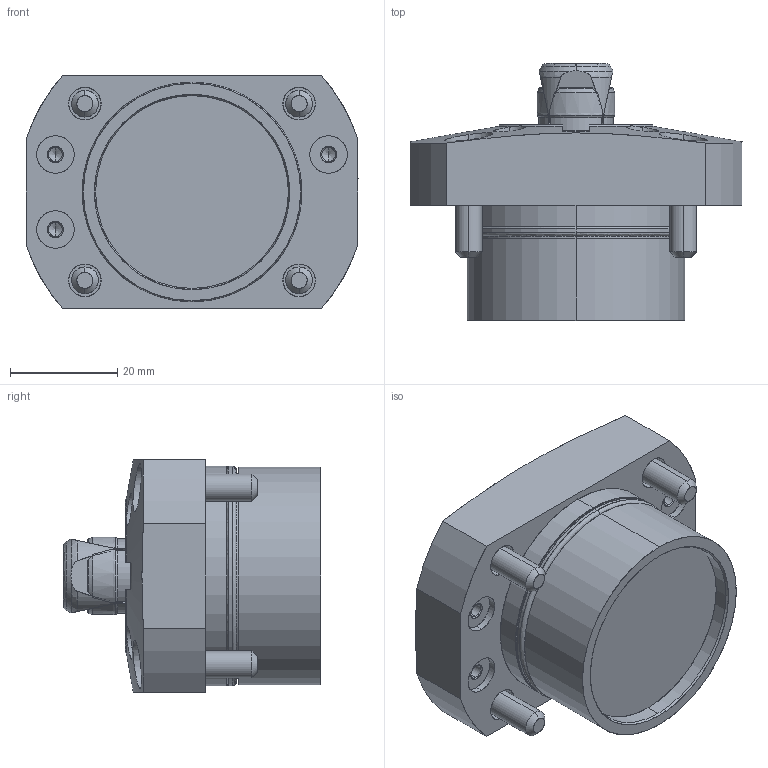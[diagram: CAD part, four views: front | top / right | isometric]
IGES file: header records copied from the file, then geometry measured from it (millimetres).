
Start section: SolidWorks IGES file using analytic representation for surfaces
Global section: file name: L:\電子カタログ-3Ｄ\SFH\ｱｾﾝﾌﾞﾘ\SFH2150_N.IGS; native system: SolidWorks 2010; preprocessor: SolidWorks 2010; author: D214; date: 101104.081933; units: millimetre
Bounding box: 62 x 48 x 43.5 mm (x, y, z)
Surface area: 21934.6 mm2 (no closed solid volume)
Topology: 0 solids, 0 shells, 480 faces, 6291 edges, 6267 vertices
Faces by surface type: revolution 274, bspline 206
